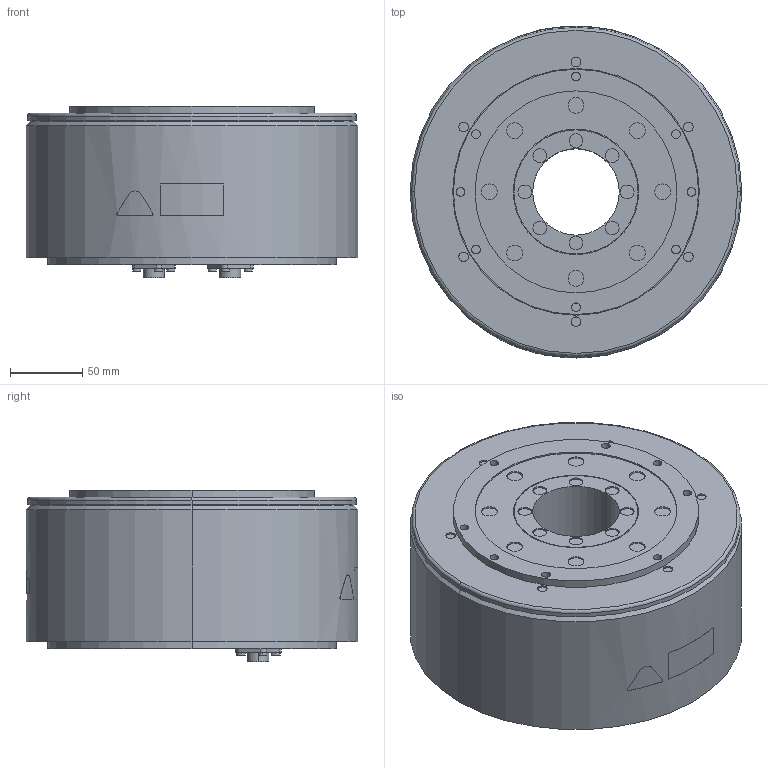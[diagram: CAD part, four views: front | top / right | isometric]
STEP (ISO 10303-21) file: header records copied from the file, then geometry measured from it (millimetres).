
FILE_DESCRIPTION (( 'STEP AP203' ), '1' );
FILE_NAME ('sgm7e_17d_a1_.STEP', '2016-06-02T07:13:30', ( '' ), ( '' ), 'SwSTEP 2.0', 'SolidWorks 2010', '' );
FILE_SCHEMA (( 'CONFIG_CONTROL_DESIGN' ));
Length unit declared in the file: millimetre
Products named in the file (1): sgm7e_17d_a1_
Bounding box: 230 x 230 x 119.1 mm (x, y, z)
Volume: 4088059.7 mm3; surface area: 184608.6 mm2
Topology: 1 solids, 1 shells, 336 faces, 730 edges, 484 vertices
Faces by surface type: cylinder 189, plane 136, bspline 5, cone 4, torus 2
Entity records: 9809 total; most frequent: CARTESIAN_POINT 1984, DIRECTION 1778, ORIENTED_EDGE 1460, AXIS2_PLACEMENT_3D 732, EDGE_CURVE 730, VERTEX_POINT 484, EDGE_LOOP 426, CIRCLE 400
